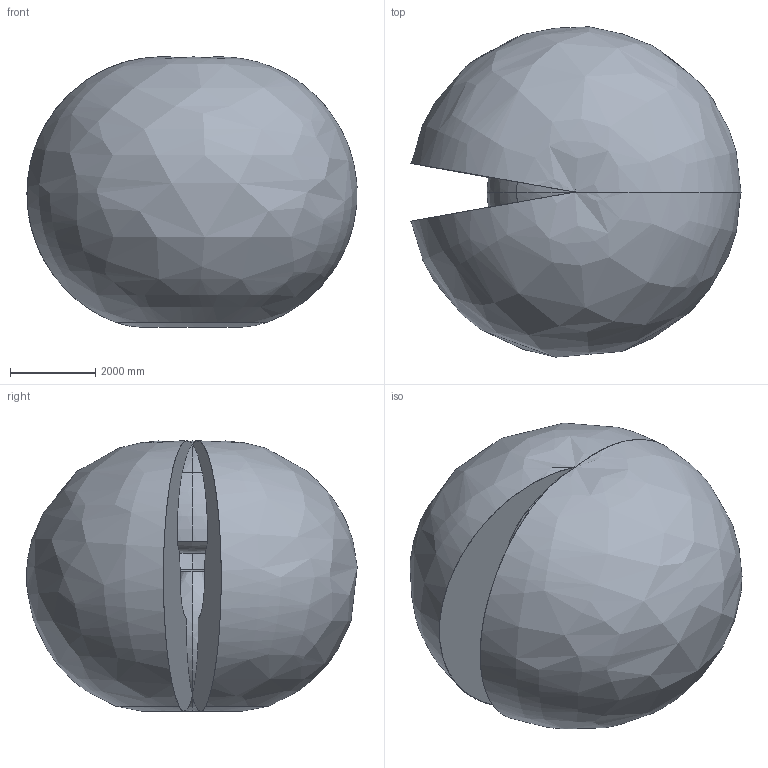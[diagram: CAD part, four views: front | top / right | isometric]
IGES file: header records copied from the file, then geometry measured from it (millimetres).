
Start section: SolidWorks IGES file using analytic representation for surfaces
Global section: file name: C:\Data\SAP_DOC\IRB6740_lightweight\6750S\IRB 6750S ASM\IRB6750S_215kg-390_OC_01_SW_J\IRB6750S_215kg-390_OC_01_IGES_J\IRB6750S_215kg-390_OC_00_Working-envelope.igs; native system: SolidWorks 2024; preprocessor: SolidWorks 2024; author: SEJAOLS6; date: 260513.072037; units: millimetre
Bounding box: 7752.29 x 7759.82 x 6348.27 mm (x, y, z)
Surface area: 241886400.2 mm2 (no closed solid volume)
Topology: 0 solids, 0 shells, 29 faces, 821 edges, 813 vertices
Faces by surface type: bspline 25, revolution 4
